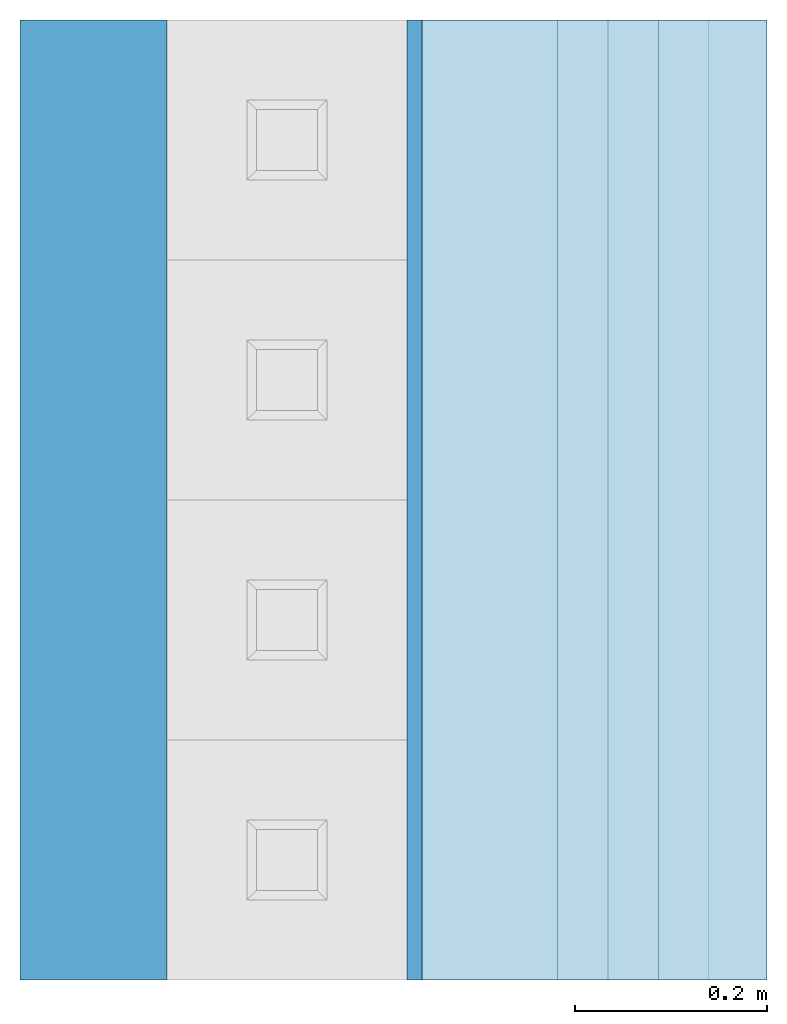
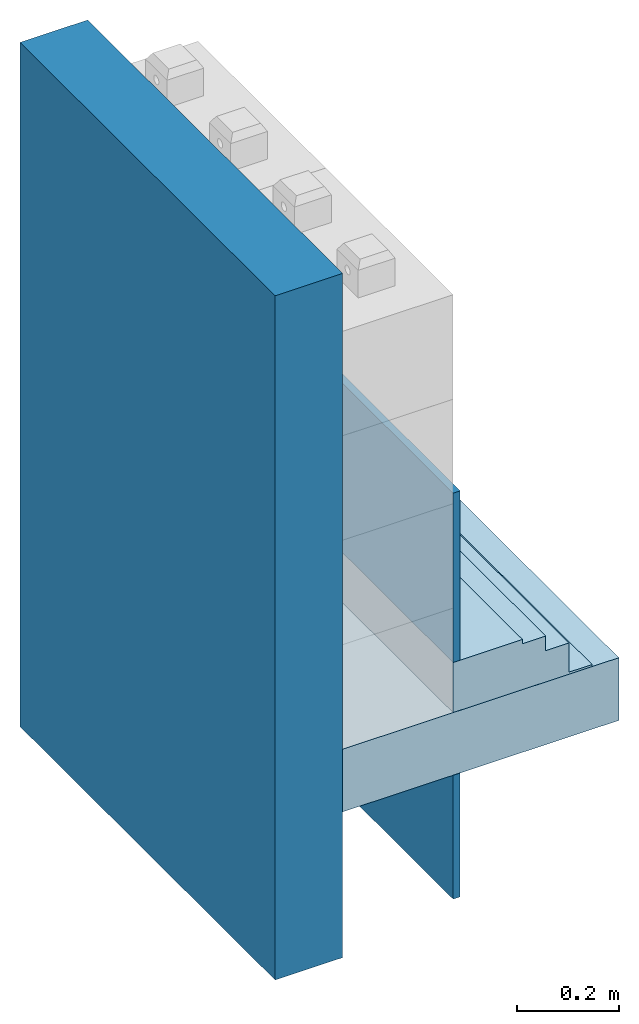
# One storey, incomplete: 3 walls, 2 slabs.
"""IFC4 building model written with IfcOpenShell, lengths in centimetres."""

from ifc_helpers import new_model, entity, si_unit, converted_unit, direction, frame, origin, place, context, subcontext, project, spatial, indexed_curve, outline, extrude, material, constituent, constituent_set, type_object, element, save


model = new_model("IFC4")

# Units and contexts
model_context = context("Model", 3, precision=0.001, world=origin(), true_north=direction((0.0, 1.0)))
body_context = subcontext(model_context, "Body", "Model", "MODEL_VIEW")
ifc_project = project(units=[si_unit("LENGTHUNIT", "METRE", prefix="CENTI"), si_unit("AREAUNIT", "SQUARE_METRE"), si_unit("VOLUMEUNIT", "CUBIC_METRE"), converted_unit("PLANEANGLEUNIT", "DEGREE", entity("IfcPlaneAngleMeasure", 0.017453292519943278), si_unit("PLANEANGLEUNIT", "RADIAN"), dimensions=[0, 0, 0, 0, 0, 0, 0])], contexts=[model_context])

# Site, building, storey
site_placement = place(None, origin())
site = spatial("IfcSite", under=ifc_project, at=site_placement, Name="Default", CompositionType="ELEMENT")
building_placement = place(site_placement, origin())
building = spatial("IfcBuilding", under=site, at=building_placement, CompositionType="ELEMENT")
storey_placement = place(building_placement, frame((0.0, 0.0, -12.0)))
storey = spatial("IfcBuildingStorey", under=building, at=storey_placement, Name="L00__ABOVE Slab", CompositionType="ELEMENT", Elevation=-12.000000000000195)

# Slabs
ifc_material_1 = material(Name="_STRUCTURE__Wood")
slab_type_1 = type_object("IfcSlabType", Name="Floors : Floor : flr__STRUCTURE__Wood Beams 15cm__TriqBriq", PredefinedType="FLOOR", material=ifc_material_1)
slab_1_placement = place(storey_placement, origin())
element("IfcSlab", 1, at=slab_1_placement, inside=storey, type_object=slab_type_1, material=ifc_material_1, Name="Floors : Floor : flr__STRUCTURE__Wood Beams 15cm__TriqBriq", PredefinedType="FLOOR", context=body_context, shape_type="SweptSolid", body=[
    extrude(outline(indexed_curve([(-50.0, -31.25000000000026), (50.0, -31.25000000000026), (50.0, 31.250000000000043), (-50.0, 31.250000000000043), (-50.0, -31.25000000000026)], self_intersect=False)), frame((1444.399456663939, 269.3718731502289, 7.500000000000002), z_axis=(0.0, 0.0, -1.0), x_axis=(0.0, 1.0, 0.0)), (0.0, 0.0, 1.0), 15.000000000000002),
])
ifc_material_2 = material(Name="_FINISH STAIR__Int__Parquet Flooring__Stairs", Category="Unassigned")
ifc_constituent_1 = constituent(ifc_material_2, Name="_FINISH STAIR__Int__Parquet Flooring__Stairs", Category="Unassigned", fraction=0.08333333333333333)
ifc_material_3 = material(Name="_FLR LAYERS__Screed, SL 0.5%__Semi-dry CEM, Rc ≥ 22.5 N/mm²", Category="Concrete")
ifc_constituent_2 = constituent(ifc_material_3, Name="_FLR LAYERS__Screed, SL 0.5%__Semi-dry CEM, Rc ≥ 22.5 N/mm²", Category="Concrete", fraction=0.2916666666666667)
ifc_material_4 = material(Name="_FLR COVERING__Polished Concrete", Category="Concrete")
ifc_constituent_3 = constituent(ifc_material_4, Name="_FLR COVERING__Polished Concrete", Category="Concrete", fraction=0.5833333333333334)
ifc_material_5 = material(Name="_FCD VENT LAYERS__Support Board__OSB 3", Category="Ceramic")
ifc_constituent_4 = constituent(ifc_material_5, Name="_FCD VENT LAYERS__Support Board__OSB 3", Category="Ceramic", fraction=0.041666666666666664)
ifc_constituent_set_1 = constituent_set(constituents=[ifc_constituent_1, ifc_constituent_2, ifc_constituent_3, ifc_constituent_4], Name="Floor:flr__INT COVERING__Parquet")
slab_type_2 = type_object("IfcSlabType", Name="Floors : Floor : flr__INT COVERING__Parquet", PredefinedType="FLOOR", material=ifc_constituent_set_1)
slab_2_placement = place(storey_placement, origin())
element("IfcSlab", 2, at=slab_2_placement, inside=storey, type_object=slab_type_2, material=ifc_constituent_set_1, Name="Floors : Floor : flr__INT COVERING__Parquet", PredefinedType="FLOOR", context=body_context, shape_type="SweptSolid", body=[
    extrude(outline(indexed_curve([(-7.849999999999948, -50.0), (7.849999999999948, -50.0), (7.849999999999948, 50.0), (-7.849999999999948, 50.0), (-7.849999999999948, -50.0)], self_intersect=False)), frame((1445.999456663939, 269.3718731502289, 18.5), z_axis=(0.0, 0.0, 1.0), x_axis=(-1.0, 0.0, 0.0)), (0.0, 0.0, 1.0), 1.0000000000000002),
    extrude(outline(indexed_curve([(-10.475000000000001, -50.0), (10.474999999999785, -50.0), (10.474999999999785, 50.0), (-10.475000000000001, 50.0), (-10.475000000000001, -50.0)], self_intersect=False)), frame((1448.624456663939, 269.3718731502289, 15.0), z_axis=(0.0, 0.0, 1.0), x_axis=(-1.0, 0.0, 0.0)), (0.0, 0.0, 1.0), 3.4999999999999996),
    extrude(outline(indexed_curve([(-13.099999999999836, -50.0), (13.100000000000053, -50.0), (13.100000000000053, 50.0), (-13.099999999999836, 50.0), (-13.099999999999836, -50.0)], self_intersect=False)), frame((1451.2494566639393, 269.3718731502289, 8.0), z_axis=(0.0, 0.0, 1.0), x_axis=(-1.0, 0.0, 0.0)), (0.0, 0.0, 1.0), 7.0),
    extrude(outline(indexed_curve([(-15.72499999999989, -50.0), (15.72499999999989, -50.0), (15.72499999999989, 50.0), (-15.72499999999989, 50.0), (-15.72499999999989, -50.0)], self_intersect=False)), frame((1453.874456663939, 269.3718731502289, 7.500000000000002), z_axis=(0.0, 0.0, 1.0), x_axis=(-1.0, 0.0, 0.0)), (0.0, 0.0, 1.0), 0.49999999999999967),
])

# Walls
ifc_material_6 = material(Name="_WLL & CLG FINISHES__Lime - CEM Plaster", Category="Unassigned")
ifc_constituent_5 = constituent(ifc_material_6, Name="_WLL & CLG FINISHES__Lime - CEM Plaster", Category="Unassigned", fraction=0.37499999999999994)
ifc_material_7 = material(Name="_FCD LAYERS__Insulation__EPS 120__Austrotherm EPS A120")
ifc_constituent_6 = constituent(ifc_material_7, Name="_FCD LAYERS__Insulation__EPS 120__Austrotherm EPS A120", fraction=0.625)
ifc_constituent_set_2 = constituent_set(constituents=[ifc_constituent_5, ifc_constituent_6], Name="Basic Wall:wll__INT FINISH__Spritzkork, Lime - CEM Plaster 2.4cm TRIQBRIQ")
wall_type_1 = type_object("IfcWallType", Name="Walls : Basic Wall : wll__INT FINISH__Spritzkork, Lime - CEM Plaster 2.4cm TRIQBRIQ", PredefinedType="STANDARD", material=ifc_constituent_set_2)
wall_1_placement = place(storey_placement, frame((1438.9494566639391, 319.3718731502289, 19.5), z_axis=(0.0, 0.0, 1.0), x_axis=(0.0, -1.0, 0.0)))
element("IfcWall", 3, at=wall_1_placement, inside=storey, type_object=wall_type_1, material=ifc_constituent_set_2, Name="Walls : Basic Wall : wll__INT FINISH__Spritzkork, Lime - CEM Plaster 2.4cm TRIQBRIQ", PredefinedType="NOTDEFINED", context=body_context, shape_type="SweptSolid", body=[
    extrude(outline(indexed_curve([(-0.5000000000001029, -50.000000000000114), (0.4999999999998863, -50.000000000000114), (0.5000000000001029, 50.000000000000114), (-0.4999999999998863, 50.000000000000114), (-0.5000000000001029, -50.000000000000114)], self_intersect=False)), frame((50.0, -0.3000000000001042, 0.0), z_axis=(0.0, 0.0, 1.0), x_axis=(0.0, 1.0, 0.0)), (0.0, 0.0, 1.0), 40.500000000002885),
    extrude(outline(indexed_curve([(-0.29999999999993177, -50.000000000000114), (0.30000000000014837, -50.000000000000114), (0.3000000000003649, 50.000000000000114), (-0.2999999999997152, 50.000000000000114), (-0.29999999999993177, -50.000000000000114)], self_intersect=False)), frame((50.0, 0.5000000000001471, 0.0), z_axis=(0.0, 0.0, 1.0), x_axis=(0.0, -1.0, 0.0)), (0.0, 0.0, 1.0), 40.500000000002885),
])
wall_2_placement = place(storey_placement, frame((1438.9494566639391, 319.3718731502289, -37.13198891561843), z_axis=(0.0, 0.0, 1.0), x_axis=(0.0, -1.0, 0.0)))
element("IfcWall", 4, at=wall_2_placement, inside=storey, type_object=wall_type_1, material=ifc_constituent_set_2, Name="Walls : Basic Wall : wll__INT FINISH__Spritzkork, Lime - CEM Plaster 2.4cm TRIQBRIQ", PredefinedType="NOTDEFINED", context=body_context, shape_type="SweptSolid", body=[
    extrude(outline(indexed_curve([(-0.29999999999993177, -50.000000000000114), (0.30000000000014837, -50.000000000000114), (0.3000000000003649, 50.000000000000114), (-0.2999999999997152, 50.000000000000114), (-0.29999999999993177, -50.000000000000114)], self_intersect=False)), frame((50.0, 0.5000000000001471, 0.0), z_axis=(0.0, 0.0, 1.0), x_axis=(0.0, -1.0, 0.0)), (0.0, 0.0, 1.0), 29.631988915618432),
    extrude(outline(indexed_curve([(-0.5000000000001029, -50.000000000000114), (0.4999999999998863, -50.000000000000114), (0.5000000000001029, 50.000000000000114), (-0.4999999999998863, 50.000000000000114), (-0.5000000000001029, -50.000000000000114)], self_intersect=False)), frame((50.0, -0.3000000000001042, 0.0), z_axis=(0.0, 0.0, 1.0), x_axis=(0.0, 1.0, 0.0)), (0.0, 0.0, 1.0), 29.631988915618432),
])
ifc_material_8 = material(Name="_FCD FINISH__Mineral Render__Combed, H L/O__Capatect Kreativeffekt \"Filigrano\"__White", Category="Concrete")
ifc_constituent_7 = constituent(ifc_material_8, Name="_FCD FINISH__Mineral Render__Combed, H L/O__Capatect Kreativeffekt \"Filigrano\"__White", Category="Concrete", fraction=0.0196078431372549)
ifc_material_9 = material(Name="_STRUCTURE__Wood Solid")
ifc_constituent_8 = constituent(ifc_material_9, Name="_STRUCTURE__Wood Solid", fraction=0.06535947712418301)
ifc_material_10 = material(Name="_FCD LAYERS__Insulation__Wood-fiber__Steico", Category="Unassigned")
ifc_constituent_9 = constituent(ifc_material_10, Name="_FCD LAYERS__Insulation__Wood-fiber__Steico", Category="Unassigned", fraction=0.9150326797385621)
ifc_constituent_set_3 = constituent_set(constituents=[ifc_constituent_7, ifc_constituent_8, ifc_constituent_9], Name="Basic Wall:wll__EXT ENCLOSURE__Spritzkork, Wood Insulation 8.4cm__TriqBriq, FS.1")
wall_type_2 = type_object("IfcWallType", Name="Walls : Basic Wall : wll__EXT ENCLOSURE__Spritzkork, Wood Insulation 8.4cm__TriqBriq, FS.1", PredefinedType="STANDARD", material=ifc_constituent_set_3)
wall_3_placement = place(storey_placement, frame((1405.4994566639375, 219.37187315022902, -42.37403662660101), z_axis=(0.0, 0.0, 1.0), x_axis=(0.0, 1.0, 0.0)))
element("IfcWall", 5, at=wall_3_placement, inside=storey, type_object=wall_type_2, material=ifc_constituent_set_3, Name="Walls : Basic Wall : wll__EXT ENCLOSURE__Spritzkork, Wood Insulation 8.4cm__TriqBriq, FS.1", PredefinedType="NOTDEFINED", context=body_context, shape_type="SweptSolid", body=[
    extrude(outline(indexed_curve([(-50.000000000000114, -0.4999999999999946), (50.000000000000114, -0.4999999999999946), (50.000000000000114, 0.4999999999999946), (-50.000000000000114, 0.4999999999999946), (-50.000000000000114, -0.4999999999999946)], self_intersect=False)), frame((50.0, 6.850000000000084, 0.0)), (0.0, 0.0, 1.0), 163.71957169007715),
    extrude(outline(indexed_curve([(-7.000000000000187, -50.000000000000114), (7.000000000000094, -50.000000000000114), (6.999999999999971, 50.000000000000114), (-7.000000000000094, 50.000000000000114), (-7.000000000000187, -50.000000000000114)], self_intersect=False)), frame((50.0, -0.649999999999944, 0.0), z_axis=(0.0, 0.0, 1.0), x_axis=(0.0, 1.0, 0.0)), (0.0, 0.0, 1.0), 163.71957169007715),
    extrude(outline(indexed_curve([(-0.15000000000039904, -50.000000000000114), (0.14999999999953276, -50.000000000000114), (0.15000000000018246, 50.000000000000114), (-0.14999999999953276, 50.000000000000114), (-0.15000000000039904, -50.000000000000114)], self_intersect=False)), frame((50.0, 7.499999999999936, 0.0), z_axis=(0.0, 0.0, 1.0), x_axis=(0.0, -1.0, 0.0)), (0.0, 0.0, 1.0), 163.71957169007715),
])

save(model, "model.ifc")
